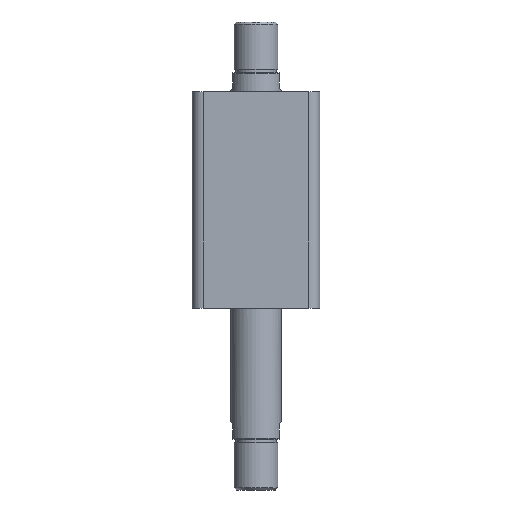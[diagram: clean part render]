
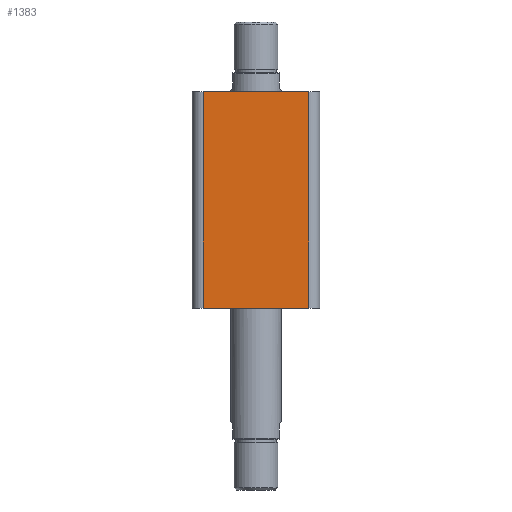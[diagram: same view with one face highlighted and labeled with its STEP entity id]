
A CAD part, front view. The second image highlights one B-rep face of the part: STEP entity #1383.
In plain terms, the highlighted planar face has unit normal (0, -1, 0).
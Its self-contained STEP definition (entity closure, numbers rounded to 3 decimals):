
#122 = CARTESIAN_POINT ( 'NONE',  ( -57., -57., 193. ) ) ;
#124 = PLANE ( 'NONE',  #2583 ) ;
#126 = DIRECTION ( 'NONE',  ( 0., 1., 0. ) ) ;
#127 = DIRECTION ( 'NONE',  ( 0., 0., 1. ) ) ;
#665 = CARTESIAN_POINT ( 'NONE',  ( 47., -57., 193. ) ) ;
#675 = CARTESIAN_POINT ( 'NONE',  ( -57., -57., 0. ) ) ;
#676 = DIRECTION ( 'NONE',  ( 1., 0., 0. ) ) ;
#677 = DIRECTION ( 'NONE',  ( 0., 0., 1. ) ) ;
#678 = CARTESIAN_POINT ( 'NONE',  ( -57., -57., 193. ) ) ;
#679 = DIRECTION ( 'NONE',  ( 1., 0., 0. ) ) ;
#680 = CARTESIAN_POINT ( 'NONE',  ( -47., -57., 193. ) ) ;
#681 = DIRECTION ( 'NONE',  ( 0., 0., -1. ) ) ;
#1383 = ADVANCED_FACE ( 'NONE', ( #3038 ), #124, .F. ) ;
#1593 = ORIENTED_EDGE ( 'NONE', *, *, #2406, .T. ) ;
#1594 = ORIENTED_EDGE ( 'NONE', *, *, #2407, .T. ) ;
#1595 = ORIENTED_EDGE ( 'NONE', *, *, #2408, .F. ) ;
#1596 = ORIENTED_EDGE ( 'NONE', *, *, #2409, .T. ) ;
#1991 = EDGE_LOOP ( 'NONE', ( #1593, #1594, #1595, #1596 ) ) ;
#2109 = CARTESIAN_POINT ( 'NONE',  ( -47., -57., 0. ) ) ;
#2113 = CARTESIAN_POINT ( 'NONE',  ( 47., -57., 0. ) ) ;
#2122 = CARTESIAN_POINT ( 'NONE',  ( 47., -57., 193. ) ) ;
#2125 = CARTESIAN_POINT ( 'NONE',  ( -47., -57., 193. ) ) ;
#2406 = EDGE_CURVE ( 'NONE', #2872, #2875, #3318, .T. ) ;
#2407 = EDGE_CURVE ( 'NONE', #2875, #2885, #3312, .T. ) ;
#2408 = EDGE_CURVE ( 'NONE', #2888, #2885, #3322, .T. ) ;
#2409 = EDGE_CURVE ( 'NONE', #2888, #2872, #3324, .T. ) ;
#2583 = AXIS2_PLACEMENT_3D ( 'NONE', #122, #126, #127 ) ;
#2872 = VERTEX_POINT ( 'NONE', #2109 ) ;
#2875 = VERTEX_POINT ( 'NONE', #2113 ) ;
#2885 = VERTEX_POINT ( 'NONE', #2122 ) ;
#2888 = VERTEX_POINT ( 'NONE', #2125 ) ;
#3038 = FACE_OUTER_BOUND ( 'NONE', #1991, .T. ) ;
#3312 = LINE ( 'NONE', #665, #3323 ) ;
#3318 = LINE ( 'NONE', #675, #3321 ) ;
#3321 = VECTOR ( 'NONE', #676, 1000. ) ;
#3322 = LINE ( 'NONE', #678, #3325 ) ;
#3323 = VECTOR ( 'NONE', #677, 1000. ) ;
#3324 = LINE ( 'NONE', #680, #3327 ) ;
#3325 = VECTOR ( 'NONE', #679, 1000. ) ;
#3327 = VECTOR ( 'NONE', #681, 1000. ) ;
